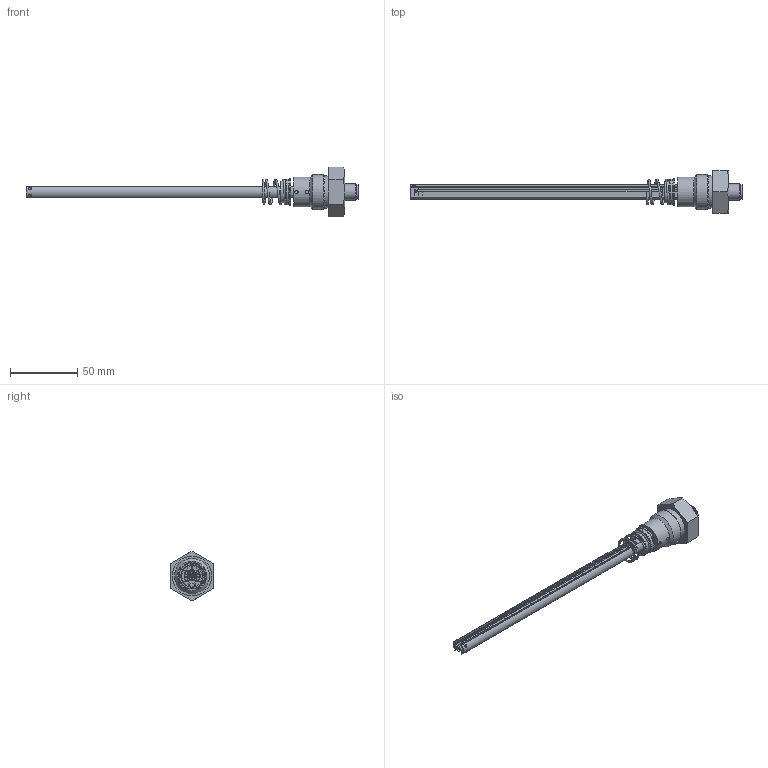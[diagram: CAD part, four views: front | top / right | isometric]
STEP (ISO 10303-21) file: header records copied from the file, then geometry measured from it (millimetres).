
FILE_DESCRIPTION(/* description */ ('Unknown'),/* implementation_level */ '2;1');
FILE_NAME(/* name */ 'PRHY121771592DB',/* time_stamp */ '2026-06-29T17:59:57+02:00',/* author */ ('Unknown'),/* organization */ ('Unknown'),/* preprocessor_version */ 'ST-DEVELOPER v20',/* originating_system */ 'Solid Edge',/* authorisation */ 'Unknown');
FILE_SCHEMA (('AUTOMOTIVE_DESIGN {1 0 10303 214 3 1 1}'));
Length unit declared in the file: millimetre
Products named in the file (35): A397550; 120825; 131801; 682697; 687598; 682750; 682750 contact; 682750 verre; 821812; 197585; 131214; PoD115-51_SC; 131100-serti; 662532; PoD115-51_AG; PoD115-81; 664248; 720133; 796111_1; 622563_retour; 794116; 796111_2; 744064; 794019; 796111_3; 662791; 652538; 689264; 174213_oa_0; PoD115-28; 672351; 671751_serti; 131701_working_position; 796111
Assembly tree (54 placements, depth 4):
  A397550
    120825
    131801
      682697
      687598
      682750
        682750
        682750 contact  x3
        682750 verre
      821812
    197585
      131214
      PoD115-51_SC
      131100-serti  x5
      662532  x5
      PoD115-51_AG
      PoD115-81
    664248  x4
    720133
    796111_1
    622563_retour
    794116  x2
    796111_2
    744064
    794019
    796111_3  x3
    662791  x2
    652538  x2
    689264
    174213_oa_0
      PoD115-28
      672351
      671751_serti  x3
      131701_working_position
      796111
Bounding box: 246.5 x 31.85 x 36.78 mm (x, y, z)
Volume: 30557.5 mm3; surface area: 35248.1 mm2
Topology: 58 solids, 58 shells, 1108 faces, 2814 edges, 1849 vertices
Faces by surface type: plane 569, cylinder 398, bspline 58, torus 44, cone 30, sphere 9
Full cylindrical faces by diameter (mm): 0.4 x7, 0.75 x13, 0.8 x19, 0.9 x4, 1 x15, 1.05 x10, 1.1 x17, 1.22 x1, 1.3 x6, 1.4 x15, 1.5 x5, 1.7 x5, 2 x6, 2.459 x2, 3 x2, 5.5 x1, 6.7 x2, 7.8 x3, 8.3 x1, 8.35 x1, 8.376 x2, 9 x1, 9.4 x3, 9.5 x1, 9.7 x2, 10 x1, 10.5 x1, 10.8 x1, 10.917 x1, 11 x2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
Entity records: 34469 total; most frequent: CARTESIAN_POINT 9347, ORIENTED_EDGE 4448, DIRECTION 4287, EDGE_CURVE 2224, AXIS2_PLACEMENT_3D 1569, VERTEX_POINT 1556, FACE_BOUND 1250, EDGE_LOOP 1246
